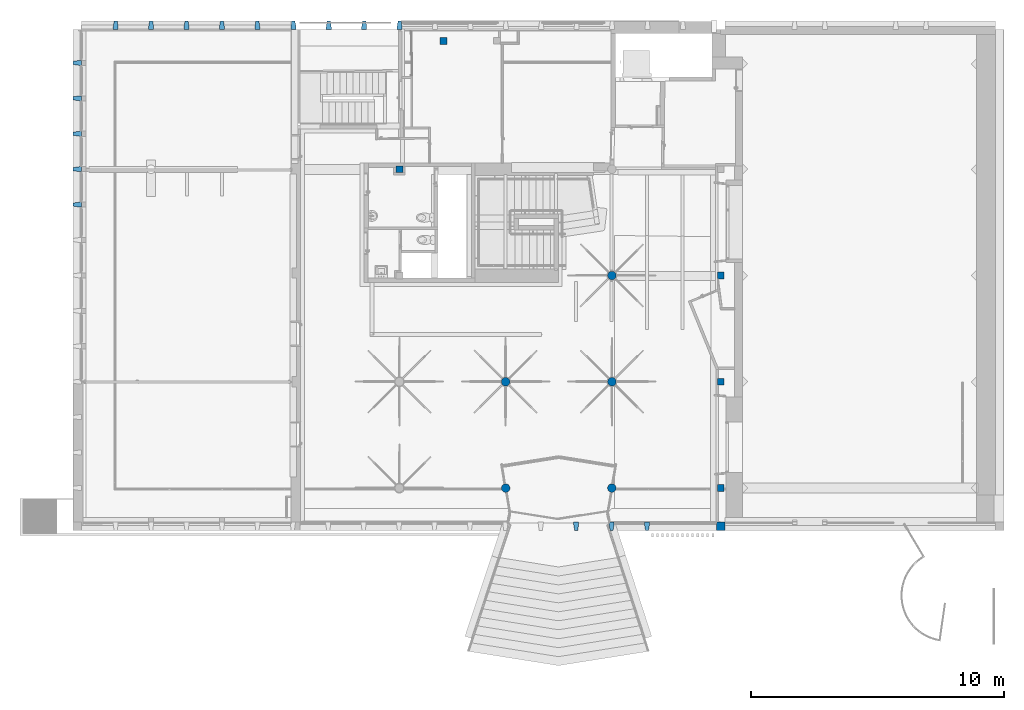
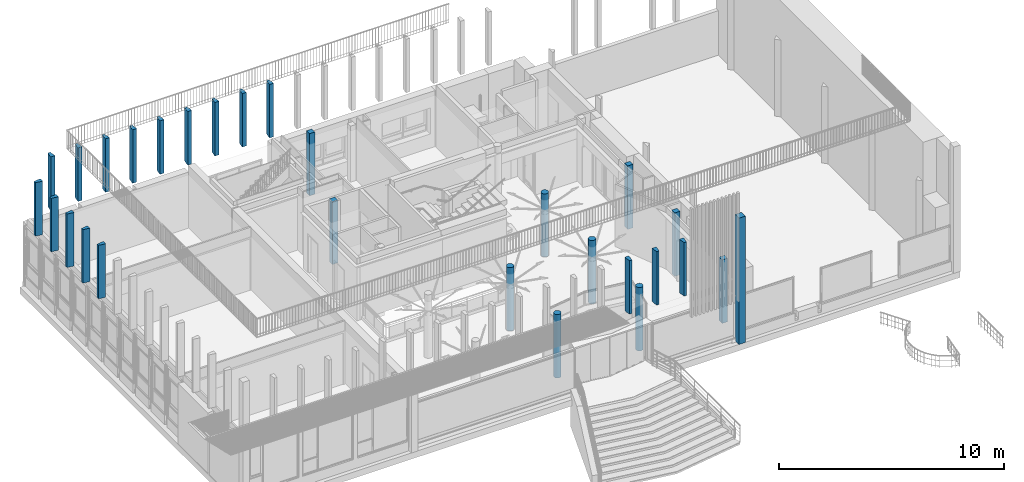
# One storey, part 2 of 65: 28 columns.
"""IFC4 building model written with IfcOpenShell, lengths in metres."""

from ifc_helpers import new_model, entity, si_unit, converted_unit, derived_unit, direction, frame, origin, place, context, subcontext, project, spatial, indexed_curve, outline, extrude, source, transform, mapped, material, material_list, type_object, type_shapes, element, save


model = new_model("IFC4")

# Units and contexts
model_context = context("Model", 3, precision=1e-05, world=origin(), true_north=direction((6.12303176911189e-17, 1.0)))
body_context = subcontext(model_context, "Body", "Model", "MODEL_VIEW")
ifc_project = project(units=[si_unit("LENGTHUNIT", "METRE"), si_unit("AREAUNIT", "SQUARE_METRE"), si_unit("VOLUMEUNIT", "CUBIC_METRE"), converted_unit("PLANEANGLEUNIT", "DEGREE", entity("IfcRatioMeasure", 0.0174532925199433), si_unit("PLANEANGLEUNIT", "RADIAN"), dimensions=[0, 0, 0, 0, 0, 0, 0]), si_unit("MASSUNIT", "GRAM", prefix="KILO"), derived_unit("MASSDENSITYUNIT", [(si_unit("MASSUNIT", "GRAM", prefix="KILO"), 1), (si_unit("LENGTHUNIT", "METRE"), -3)]), derived_unit("MOMENTOFINERTIAUNIT", [(si_unit("LENGTHUNIT", "METRE"), 4)]), si_unit("TIMEUNIT", "SECOND"), si_unit("FREQUENCYUNIT", "HERTZ"), si_unit("THERMODYNAMICTEMPERATUREUNIT", "DEGREE_CELSIUS"), derived_unit("THERMALTRANSMITTANCEUNIT", [(si_unit("MASSUNIT", "GRAM", prefix="KILO"), 1), (si_unit("THERMODYNAMICTEMPERATUREUNIT", "KELVIN"), -1), (si_unit("TIMEUNIT", "SECOND"), -3)]), derived_unit("VOLUMETRICFLOWRATEUNIT", [(si_unit("LENGTHUNIT", "METRE"), 3), (si_unit("TIMEUNIT", "SECOND"), -1)]), si_unit("ELECTRICCURRENTUNIT", "AMPERE"), si_unit("ELECTRICVOLTAGEUNIT", "VOLT"), si_unit("POWERUNIT", "WATT"), si_unit("FORCEUNIT", "NEWTON", prefix="KILO"), si_unit("ILLUMINANCEUNIT", "LUX"), si_unit("LUMINOUSFLUXUNIT", "LUMEN"), si_unit("LUMINOUSINTENSITYUNIT", "CANDELA"), derived_unit("USERDEFINED", [(si_unit("MASSUNIT", "GRAM", prefix="KILO"), -1), (si_unit("LENGTHUNIT", "METRE"), -2), (si_unit("TIMEUNIT", "SECOND"), 3), (si_unit("LUMINOUSFLUXUNIT", "LUMEN"), 1)]), derived_unit("LINEARVELOCITYUNIT", [(si_unit("LENGTHUNIT", "METRE"), 1), (si_unit("TIMEUNIT", "SECOND"), -1)]), si_unit("PRESSUREUNIT", "PASCAL"), derived_unit("USERDEFINED", [(si_unit("LENGTHUNIT", "METRE"), -2), (si_unit("MASSUNIT", "GRAM", prefix="KILO"), 1), (si_unit("TIMEUNIT", "SECOND"), -2)]), derived_unit("LINEARFORCEUNIT", [(si_unit("MASSUNIT", "GRAM", prefix="KILO"), 1), (si_unit("LENGTHUNIT", "METRE"), 1), (si_unit("TIMEUNIT", "SECOND"), -2), (si_unit("LENGTHUNIT", "METRE"), -1)]), derived_unit("PLANARFORCEUNIT", [(si_unit("MASSUNIT", "GRAM", prefix="KILO"), 1), (si_unit("LENGTHUNIT", "METRE"), 1), (si_unit("TIMEUNIT", "SECOND"), -2), (si_unit("LENGTHUNIT", "METRE"), -2)])], contexts=[model_context])

# Site, building, storey
site_placement = place(None, origin())
site = spatial("IfcSite", under=ifc_project, at=site_placement, Name="Default", CompositionType="ELEMENT")
building_placement = place(site_placement, origin())
building = spatial("IfcBuilding", under=site, at=building_placement, Name="HOTEL CONSULAIRE BOULOGNE SUR MER", CompositionType="ELEMENT")
storey_placement = place(building_placement, origin())
storey = spatial("IfcBuildingStorey", under=building, at=storey_placement, Name="Niveau 0", CompositionType="ELEMENT", Elevation=1.31981936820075e-13)

# Columns
ifc_material_1 = material(Name="Maçonnerie - Béton coulé sur place", Category="Béton")
column_type_1 = type_object("IfcColumnType", Name="Poteau béton - Arrondi:340", PredefinedType="COLUMN", material=ifc_material_1)
shared_shape_1 = source(origin(), body_context, "Body", "SweptSolid", [
    extrude(outline(indexed_curve([(0.169999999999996, -2.97350308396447e-16), (0.161679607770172, 0.0525328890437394), (0.137532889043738, 0.0999234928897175), (0.099923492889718, 0.137532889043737), (0.0525328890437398, 0.161679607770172), (1.86135598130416e-16, 0.169999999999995), (-0.0525328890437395, 0.161679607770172), (-0.0999234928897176, 0.137532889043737), (-0.137532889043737, 0.0999234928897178), (-0.161679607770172, 0.0525328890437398), (-0.169999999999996, 1.7643968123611e-16), (-0.161679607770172, -0.0525328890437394), (-0.137532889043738, -0.0999234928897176), (-0.0999234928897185, -0.137532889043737), (-0.0525328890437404, -0.161679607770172), (-8.18583797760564e-16, -0.169999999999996), (0.0525328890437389, -0.161679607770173), (0.0999234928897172, -0.137532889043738), (0.137532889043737, -0.099923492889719), (0.161679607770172, -0.052532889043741), (0.169999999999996, -2.97350308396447e-16)], self_intersect=False)), frame((0.0, 0.0, -0.019999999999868)), (0.0, 0.0, 1.0), 3.4215269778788),
])
type_shapes(column_type_1, [shared_shape_1])
column_1_placement = place(storey_placement, frame((7.17117677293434, -19.815909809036, 0.0)))
element("IfcColumn", 1, at=column_1_placement, inside=storey, type_object=column_type_1, material=ifc_material_1, Name="Poteau béton - Arrondi:340", ObjectType="Poteau béton - Arrondi:340", PredefinedType="COLUMN", context=body_context, shape_type="MappedRepresentation", body=[
    mapped(shared_shape_1, transform((0.0, 0.0, 0.0), scale=1.0)),
])
column_type_2 = type_object("IfcColumnType", Name="Poteau béton - Arrondi:340", PredefinedType="COLUMN", material=ifc_material_1)
shared_shape_2 = source(origin(), body_context, "Body", "SweptSolid", [
    extrude(outline(indexed_curve([(0.169999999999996, -2.97350308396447e-16), (0.161679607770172, 0.0525328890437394), (0.137532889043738, 0.0999234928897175), (0.099923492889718, 0.137532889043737), (0.0525328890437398, 0.161679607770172), (1.86135598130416e-16, 0.169999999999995), (-0.0525328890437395, 0.161679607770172), (-0.0999234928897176, 0.137532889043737), (-0.137532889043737, 0.0999234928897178), (-0.161679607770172, 0.0525328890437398), (-0.169999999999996, 1.7643968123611e-16), (-0.161679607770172, -0.0525328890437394), (-0.137532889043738, -0.0999234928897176), (-0.0999234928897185, -0.137532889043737), (-0.0525328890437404, -0.161679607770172), (-8.18583797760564e-16, -0.169999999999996), (0.0525328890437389, -0.161679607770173), (0.0999234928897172, -0.137532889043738), (0.137532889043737, -0.099923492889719), (0.161679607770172, -0.052532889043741), (0.169999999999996, -2.97350308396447e-16)], self_intersect=False)), frame((0.0, 0.0, -0.0199999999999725)), (0.0, 0.0, 1.0), 3.44152697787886),
])
type_shapes(column_type_2, [shared_shape_2])
for number, where in (
    (2, (7.17117677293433, -24.015909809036, 0.0)),
    (3, (2.97117677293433, -24.015909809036, 0.0)),
    (4, (7.17117677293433, -28.215909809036, 0.0)),
    (5, (2.97117677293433, -28.215909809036, 0.0)),
):
    element("IfcColumn", number, at=place(storey_placement, frame(where)), inside=storey, type_object=column_type_2, material=ifc_material_1, Name="Poteau béton - Arrondi:340", ObjectType="Poteau béton - Arrondi:340", PredefinedType="COLUMN", context=body_context, shape_type="MappedRepresentation", body=[
        mapped(shared_shape_2, transform((0.0, 0.0, 0.0), scale=1.0)),
    ])
column_type_3 = type_object("IfcColumnType", Name="Poteau béton - Rectangulaire:270x270", PredefinedType="COLUMN", material=ifc_material_1)
shared_shape_3 = source(origin(), body_context, "Body", "SweptSolid", [
    extrude(outline(indexed_curve([(-0.135, -0.135), (0.135, -0.135), (0.135, 0.135), (-0.135, 0.135), (-0.135, -0.135)], self_intersect=False)), frame((0.521500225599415, -10.5459347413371, 0.0150000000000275), z_axis=(0.0, 0.0, 1.0), x_axis=(0.0, -1.0, 0.0)), (0.0, 0.0, 1.0), 3.3715269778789),
])
type_shapes(column_type_3, [shared_shape_3])
column_2_placement = place(storey_placement, origin())
element("IfcColumn", 6, at=column_2_placement, inside=storey, type_object=column_type_3, material=ifc_material_1, Name="Poteau béton - Rectangulaire:270x270", ObjectType="Poteau béton - Rectangulaire:270x270", PredefinedType="COLUMN", context=body_context, shape_type="MappedRepresentation", body=[
    mapped(shared_shape_3, transform((0.0, 0.0, 0.0), scale=1.0)),
])
column_type_4 = type_object("IfcColumnType", Name="Poteau béton - Rectangulaire:270x270", PredefinedType="COLUMN", material=ifc_material_1)
shared_shape_4 = source(origin(), body_context, "Body", "SweptSolid", [
    extrude(outline(indexed_curve([(-0.135, -0.135), (0.135, -0.135), (0.135, 0.135), (-0.135, 0.135), (-0.135, -0.135)], self_intersect=False)), frame((-1.22882322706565, -15.615909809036, -0.0199999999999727), z_axis=(0.0, 0.0, 1.0), x_axis=(0.0, -1.0, 0.0)), (0.0, 0.0, 1.0), 3.4065269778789),
])
type_shapes(column_type_4, [shared_shape_4])
column_3_placement = place(storey_placement, origin())
element("IfcColumn", 7, at=column_3_placement, inside=storey, type_object=column_type_4, material=ifc_material_1, Name="Poteau béton - Rectangulaire:270x270", ObjectType="Poteau béton - Rectangulaire:270x270", PredefinedType="COLUMN", context=body_context, shape_type="MappedRepresentation", body=[
    mapped(shared_shape_4, transform((0.0, 0.0, 0.0), scale=1.0)),
])
ifc_material_2 = material(Name="Finition Peinture - Blanc satiné", Category="Peinture")
ifc_material_list_1 = material_list([ifc_material_1, ifc_material_2])
column_type_5 = type_object("IfcColumnType", Name="Poteau béton - Rectangulaire:340x340", PredefinedType="COLUMN", material=ifc_material_list_1)
shared_shape_5 = source(origin(), body_context, "Body", "SweptSolid", [
    extrude(outline(indexed_curve([(-0.17, -0.17), (0.17, -0.17), (0.17, 0.17), (-0.17, 0.17), (-0.17, -0.17)], self_intersect=False)), frame((11.4766382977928, -29.7240671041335, -0.219999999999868), z_axis=(0.0, 0.0, 1.0), x_axis=(0.0, -1.0, 0.0)), (0.0, 0.0, 1.0), 6.85199999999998),
])
type_shapes(column_type_5, [shared_shape_5])
column_4_placement = place(storey_placement, origin())
element("IfcColumn", 8, at=column_4_placement, inside=storey, type_object=column_type_5, material=ifc_material_2, Name="Poteau béton - Rectangulaire:340x340", ObjectType="Poteau béton - Rectangulaire:340x340", PredefinedType="COLUMN", context=body_context, shape_type="MappedRepresentation", body=[
    mapped(shared_shape_5, transform((0.0, 0.0, 0.0), scale=1.0)),
])
ifc_material_3 = material(Name="<Unnamed>")
ifc_material_list_2 = material_list([ifc_material_2, ifc_material_3])
column_type_6 = type_object("IfcColumnType", Name="Poteaux porteurs 29:Poteaux porteurs 1", PredefinedType="COLUMN", material=ifc_material_list_2)
shared_shape_6 = source(origin(), body_context, "Body", "SweptSolid", [
    extrude(outline(indexed_curve([(-0.140333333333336, -0.100000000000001), (-0.0593333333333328, -0.100000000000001), (0.199666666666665, -0.0611499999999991), (0.199666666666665, 0.0611499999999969), (-0.0593333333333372, 0.0999999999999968), (-0.140333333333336, 0.0999999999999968), (-0.140333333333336, -0.100000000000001)], self_intersect=False)), frame((-11.0414199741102, -29.6944004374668, 3.39110477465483), z_axis=(0.0, 0.0, 1.0), x_axis=(0.0, -1.0, 0.0)), (0.0, 0.0, 1.0), 2.90089522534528),
])
type_shapes(column_type_6, [shared_shape_6])
column_5_placement = place(storey_placement, frame((15.7659645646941, -28.0528698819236, 0.0), z_axis=(0.0, 0.0, 1.0), x_axis=(0.0, -1.0, 0.0)))
element("IfcColumn", 9, at=column_5_placement, inside=storey, type_object=column_type_6, material=ifc_material_2, Name="Poteaux porteurs 29:Poteaux porteurs 1", ObjectType="Poteaux porteurs 29:Poteaux porteurs 1", PredefinedType="COLUMN", context=body_context, shape_type="MappedRepresentation", body=[
    mapped(shared_shape_6, transform((0.0, 0.0, 0.0), scale=1.0)),
])
ifc_material_list_3 = material_list([ifc_material_3, ifc_material_2])
column_type_7 = type_object("IfcColumnType", Name="Poteaux porteurs 30:Poteaux porteurs 1", PredefinedType="COLUMN", material=ifc_material_list_3)
shared_shape_7 = source(origin(), body_context, "Body", "SweptSolid", [
    extrude(outline(indexed_curve([(-0.140333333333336, -0.100000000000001), (-0.0593333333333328, -0.100000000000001), (0.199666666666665, -0.0611499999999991), (0.199666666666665, 0.0611499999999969), (-0.0593333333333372, 0.0999999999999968), (-0.140333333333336, 0.0999999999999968), (-0.140333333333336, -0.100000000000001)], self_intersect=False)), frame((-11.0414199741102, -29.6944004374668, 3.39110477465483), z_axis=(0.0, 0.0, 1.0), x_axis=(0.0, -1.0, 0.0)), (0.0, 0.0, 1.0), 2.90089522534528),
])
type_shapes(column_type_7, [shared_shape_7])
column_6_placement = place(storey_placement, frame((15.7659645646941, -26.6528698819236, 0.0), z_axis=(0.0, 0.0, 1.0), x_axis=(0.0, -1.0, 0.0)))
element("IfcColumn", 10, at=column_6_placement, inside=storey, type_object=column_type_7, material=ifc_material_2, Name="Poteaux porteurs 30:Poteaux porteurs 1", ObjectType="Poteaux porteurs 30:Poteaux porteurs 1", PredefinedType="COLUMN", context=body_context, shape_type="MappedRepresentation", body=[
    mapped(shared_shape_7, transform((0.0, 0.0, 0.0), scale=1.0)),
])
ifc_material_list_4 = material_list([ifc_material_3, ifc_material_2])
column_type_8 = type_object("IfcColumnType", Name="Poteaux porteurs 31:Poteaux porteurs 1", PredefinedType="COLUMN", material=ifc_material_list_4)
shared_shape_8 = source(origin(), body_context, "Body", "SweptSolid", [
    extrude(outline(indexed_curve([(-0.140333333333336, -0.100000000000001), (-0.0593333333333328, -0.100000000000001), (0.199666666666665, -0.0611499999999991), (0.199666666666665, 0.0611499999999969), (-0.0593333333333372, 0.0999999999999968), (-0.140333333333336, 0.0999999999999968), (-0.140333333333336, -0.100000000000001)], self_intersect=False)), frame((-11.0414199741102, -29.6944004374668, 3.39110477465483), z_axis=(0.0, 0.0, 1.0), x_axis=(0.0, -1.0, 0.0)), (0.0, 0.0, 1.0), 2.90089522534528),
])
type_shapes(column_type_8, [shared_shape_8])
column_7_placement = place(storey_placement, frame((15.7659645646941, -25.2528698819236, 0.0), z_axis=(0.0, 0.0, 1.0), x_axis=(0.0, -1.0, 0.0)))
element("IfcColumn", 11, at=column_7_placement, inside=storey, type_object=column_type_8, material=ifc_material_2, Name="Poteaux porteurs 31:Poteaux porteurs 1", ObjectType="Poteaux porteurs 31:Poteaux porteurs 1", PredefinedType="COLUMN", context=body_context, shape_type="MappedRepresentation", body=[
    mapped(shared_shape_8, transform((0.0, 0.0, 0.0), scale=1.0)),
])
ifc_material_list_5 = material_list([ifc_material_3, ifc_material_2])
column_type_9 = type_object("IfcColumnType", Name="Poteaux porteurs 32:Poteaux porteurs 1", PredefinedType="COLUMN", material=ifc_material_list_5)
shared_shape_9 = source(origin(), body_context, "Body", "SweptSolid", [
    extrude(outline(indexed_curve([(-0.140333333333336, -0.100000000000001), (-0.0593333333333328, -0.100000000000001), (0.199666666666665, -0.0611499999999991), (0.199666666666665, 0.0611499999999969), (-0.0593333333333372, 0.0999999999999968), (-0.140333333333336, 0.0999999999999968), (-0.140333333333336, -0.100000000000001)], self_intersect=False)), frame((-11.0414199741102, -29.6944004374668, 3.39110477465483), z_axis=(0.0, 0.0, 1.0), x_axis=(0.0, -1.0, 0.0)), (0.0, 0.0, 1.0), 2.90089522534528),
])
type_shapes(column_type_9, [shared_shape_9])
column_8_placement = place(storey_placement, frame((15.7659645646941, -23.8528698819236, 0.0), z_axis=(0.0, 0.0, 1.0), x_axis=(0.0, -1.0, 0.0)))
element("IfcColumn", 12, at=column_8_placement, inside=storey, type_object=column_type_9, material=ifc_material_2, Name="Poteaux porteurs 32:Poteaux porteurs 1", ObjectType="Poteaux porteurs 32:Poteaux porteurs 1", PredefinedType="COLUMN", context=body_context, shape_type="MappedRepresentation", body=[
    mapped(shared_shape_9, transform((0.0, 0.0, 0.0), scale=1.0)),
])
ifc_material_list_6 = material_list([ifc_material_2, ifc_material_3])
column_type_10 = type_object("IfcColumnType", Name="Poteaux porteurs 33:Poteaux porteurs 1", PredefinedType="COLUMN", material=ifc_material_list_6)
shared_shape_10 = source(origin(), body_context, "Body", "SweptSolid", [
    extrude(outline(indexed_curve([(-0.140333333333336, -0.100000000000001), (-0.0593333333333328, -0.100000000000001), (0.199666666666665, -0.0611499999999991), (0.199666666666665, 0.0611499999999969), (-0.0593333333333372, 0.0999999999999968), (-0.140333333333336, 0.0999999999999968), (-0.140333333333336, -0.100000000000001)], self_intersect=False)), frame((-11.0414199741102, -29.6944004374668, 3.39110477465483), z_axis=(0.0, 0.0, 1.0), x_axis=(0.0, -1.0, 0.0)), (0.0, 0.0, 1.0), 2.90089522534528),
])
type_shapes(column_type_10, [shared_shape_10])
column_9_placement = place(storey_placement, frame((15.7659645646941, -22.4528698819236, 0.0), z_axis=(0.0, 0.0, 1.0), x_axis=(0.0, -1.0, 0.0)))
element("IfcColumn", 13, at=column_9_placement, inside=storey, type_object=column_type_10, material=ifc_material_2, Name="Poteaux porteurs 33:Poteaux porteurs 1", ObjectType="Poteaux porteurs 33:Poteaux porteurs 1", PredefinedType="COLUMN", context=body_context, shape_type="MappedRepresentation", body=[
    mapped(shared_shape_10, transform((0.0, 0.0, 0.0), scale=1.0)),
])
ifc_material_list_7 = material_list([ifc_material_3, ifc_material_2])
column_type_11 = type_object("IfcColumnType", Name="Poteaux porteurs 49:Poteaux porteurs 1", PredefinedType="COLUMN", material=ifc_material_list_7)
shared_shape_11 = source(origin(), body_context, "Body", "SweptSolid", [
    extrude(outline(indexed_curve([(-0.140333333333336, -0.100000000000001), (-0.0593333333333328, -0.100000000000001), (0.199666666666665, -0.0611499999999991), (0.199666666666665, 0.0611499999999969), (-0.0593333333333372, 0.0999999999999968), (-0.140333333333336, 0.0999999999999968), (-0.140333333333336, -0.100000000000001)], self_intersect=False)), frame((-11.0414199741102, -29.6944004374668, 3.39112697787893), z_axis=(0.0, 0.0, 1.0), x_axis=(0.0, -1.0, 0.0)), (0.0, 0.0, 1.0), 2.90087302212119),
])
type_shapes(column_type_11, [shared_shape_11])
column_10_placement = place(storey_placement, frame((16.8, 0.0, 0.0)))
element("IfcColumn", 14, at=column_10_placement, inside=storey, type_object=column_type_11, material=ifc_material_2, Name="Poteaux porteurs 49:Poteaux porteurs 1", ObjectType="Poteaux porteurs 49:Poteaux porteurs 1", PredefinedType="COLUMN", context=body_context, shape_type="MappedRepresentation", body=[
    mapped(shared_shape_11, transform((0.0, 0.0, 0.0), scale=1.0)),
])
ifc_material_list_8 = material_list([ifc_material_2, ifc_material_3])
column_type_12 = type_object("IfcColumnType", Name="Poteaux porteurs 50:Poteaux porteurs 1", PredefinedType="COLUMN", material=ifc_material_list_8)
shared_shape_12 = source(origin(), body_context, "Body", "SweptSolid", [
    extrude(outline(indexed_curve([(-0.140333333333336, -0.100000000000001), (-0.0593333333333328, -0.100000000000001), (0.199666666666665, -0.0611499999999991), (0.199666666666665, 0.0611499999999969), (-0.0593333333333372, 0.0999999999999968), (-0.140333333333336, 0.0999999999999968), (-0.140333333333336, -0.100000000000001)], self_intersect=False)), frame((-11.0414199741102, -29.6944004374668, 3.39112697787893), z_axis=(0.0, 0.0, 1.0), x_axis=(0.0, -1.0, 0.0)), (0.0, 0.0, 1.0), 2.90087302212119),
])
type_shapes(column_type_12, [shared_shape_12])
column_11_placement = place(storey_placement, frame((18.2, 0.0, 0.0)))
element("IfcColumn", 15, at=column_11_placement, inside=storey, type_object=column_type_12, material=ifc_material_2, Name="Poteaux porteurs 50:Poteaux porteurs 1", ObjectType="Poteaux porteurs 50:Poteaux porteurs 1", PredefinedType="COLUMN", context=body_context, shape_type="MappedRepresentation", body=[
    mapped(shared_shape_12, transform((0.0, 0.0, 0.0), scale=1.0)),
])
ifc_material_list_9 = material_list([ifc_material_3, ifc_material_2])
column_type_13 = type_object("IfcColumnType", Name="Poteaux porteurs 51:Poteaux porteurs 1", PredefinedType="COLUMN", material=ifc_material_list_9)
shared_shape_13 = source(origin(), body_context, "Body", "SweptSolid", [
    extrude(outline(indexed_curve([(-0.140333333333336, -0.100000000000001), (-0.0593333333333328, -0.100000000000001), (0.199666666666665, -0.0611499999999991), (0.199666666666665, 0.0611499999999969), (-0.0593333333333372, 0.0999999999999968), (-0.140333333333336, 0.0999999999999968), (-0.140333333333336, -0.100000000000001)], self_intersect=False)), frame((-11.0414199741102, -29.6944004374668, 3.39112697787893), z_axis=(0.0, 0.0, 1.0), x_axis=(0.0, -1.0, 0.0)), (0.0, 0.0, 1.0), 2.90087302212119),
])
type_shapes(column_type_13, [shared_shape_13])
column_12_placement = place(storey_placement, frame((19.6, 0.0, 0.0)))
element("IfcColumn", 16, at=column_12_placement, inside=storey, type_object=column_type_13, material=ifc_material_2, Name="Poteaux porteurs 51:Poteaux porteurs 1", ObjectType="Poteaux porteurs 51:Poteaux porteurs 1", PredefinedType="COLUMN", context=body_context, shape_type="MappedRepresentation", body=[
    mapped(shared_shape_13, transform((0.0, 0.0, 0.0), scale=1.0)),
])
ifc_material_list_10 = material_list([ifc_material_2, ifc_material_3])
column_type_14 = type_object("IfcColumnType", Name="Poteaux porteurs 53:Poteaux porteurs 1", PredefinedType="COLUMN", material=ifc_material_list_10)
shared_shape_14 = source(origin(), body_context, "Body", "SweptSolid", [
    extrude(outline(indexed_curve([(-0.140333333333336, -0.100000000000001), (-0.0593333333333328, -0.100000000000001), (0.199666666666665, -0.0611499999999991), (0.199666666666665, 0.0611499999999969), (-0.0593333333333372, 0.0999999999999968), (-0.140333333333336, 0.0999999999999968), (-0.140333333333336, -0.100000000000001)], self_intersect=False)), frame((-11.0414199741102, -29.6944004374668, 3.39112697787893), z_axis=(0.0, 0.0, 1.0), x_axis=(0.0, -1.0, 0.0)), (0.0, 0.0, 1.0), 2.90087302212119),
])
type_shapes(column_type_14, [shared_shape_14])
column_13_placement = place(storey_placement, frame((-22.0828399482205, -39.6397356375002, 0.0), z_axis=(0.0, 0.0, 1.0), x_axis=(-1.0, 0.0, 0.0)))
element("IfcColumn", 17, at=column_13_placement, inside=storey, type_object=column_type_14, material=ifc_material_2, Name="Poteaux porteurs 53:Poteaux porteurs 1", ObjectType="Poteaux porteurs 53:Poteaux porteurs 1", PredefinedType="COLUMN", context=body_context, shape_type="MappedRepresentation", body=[
    mapped(shared_shape_14, transform((0.0, 0.0, 0.0), scale=1.0)),
])
ifc_material_list_11 = material_list([ifc_material_3, ifc_material_2])
column_type_15 = type_object("IfcColumnType", Name="Poteaux porteurs 54:Poteaux porteurs 1", PredefinedType="COLUMN", material=ifc_material_list_11)
shared_shape_15 = source(origin(), body_context, "Body", "SweptSolid", [
    extrude(outline(indexed_curve([(-0.140333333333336, -0.100000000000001), (-0.0593333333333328, -0.100000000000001), (0.199666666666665, -0.0611499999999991), (0.199666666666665, 0.0611499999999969), (-0.0593333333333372, 0.0999999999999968), (-0.140333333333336, 0.0999999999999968), (-0.140333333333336, -0.100000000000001)], self_intersect=False)), frame((-11.0414199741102, -29.6944004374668, 3.39112697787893), z_axis=(0.0, 0.0, 1.0), x_axis=(0.0, -1.0, 0.0)), (0.0, 0.0, 1.0), 2.90087302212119),
])
type_shapes(column_type_15, [shared_shape_15])
column_14_placement = place(storey_placement, frame((-19.2828399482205, -39.6397356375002, 0.0), z_axis=(0.0, 0.0, 1.0), x_axis=(-1.0, 0.0, 0.0)))
element("IfcColumn", 18, at=column_14_placement, inside=storey, type_object=column_type_15, material=ifc_material_2, Name="Poteaux porteurs 54:Poteaux porteurs 1", ObjectType="Poteaux porteurs 54:Poteaux porteurs 1", PredefinedType="COLUMN", context=body_context, shape_type="MappedRepresentation", body=[
    mapped(shared_shape_15, transform((0.0, 0.0, 0.0), scale=1.0)),
])
ifc_material_list_12 = material_list([ifc_material_3, ifc_material_2])
column_type_16 = type_object("IfcColumnType", Name="Poteaux porteurs 58:Poteaux porteurs 1", PredefinedType="COLUMN", material=ifc_material_list_12)
shared_shape_16 = source(origin(), body_context, "Body", "SweptSolid", [
    extrude(outline(indexed_curve([(-0.140333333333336, -0.100000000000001), (-0.0593333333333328, -0.100000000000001), (0.199666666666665, -0.0611499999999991), (0.199666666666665, 0.0611499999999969), (-0.0593333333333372, 0.0999999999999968), (-0.140333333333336, 0.0999999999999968), (-0.140333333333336, -0.100000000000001)], self_intersect=False)), frame((-11.0414199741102, -29.6944004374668, 3.39112697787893), z_axis=(0.0, 0.0, 1.0), x_axis=(0.0, -1.0, 0.0)), (0.0, 0.0, 1.0), 2.90087302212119),
])
type_shapes(column_type_16, [shared_shape_16])
column_15_placement = place(storey_placement, frame((-23.4828399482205, -39.6397356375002, 0.0), z_axis=(0.0, 0.0, 1.0), x_axis=(-1.0, 0.0, 0.0)))
element("IfcColumn", 19, at=column_15_placement, inside=storey, type_object=column_type_16, material=ifc_material_2, Name="Poteaux porteurs 58:Poteaux porteurs 1", ObjectType="Poteaux porteurs 58:Poteaux porteurs 1", PredefinedType="COLUMN", context=body_context, shape_type="MappedRepresentation", body=[
    mapped(shared_shape_16, transform((0.0, 0.0, 0.0), scale=1.0)),
])
ifc_material_list_13 = material_list([ifc_material_2, ifc_material_3])
column_type_17 = type_object("IfcColumnType", Name="Poteaux porteurs 59:Poteaux porteurs 1", PredefinedType="COLUMN", material=ifc_material_list_13)
shared_shape_17 = source(origin(), body_context, "Body", "SweptSolid", [
    extrude(outline(indexed_curve([(-0.140333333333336, -0.100000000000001), (-0.0593333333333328, -0.100000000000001), (0.199666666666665, -0.0611499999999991), (0.199666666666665, 0.0611499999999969), (-0.0593333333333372, 0.0999999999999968), (-0.140333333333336, 0.0999999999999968), (-0.140333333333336, -0.100000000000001)], self_intersect=False)), frame((-11.0414199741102, -29.6944004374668, 3.39112697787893), z_axis=(0.0, 0.0, 1.0), x_axis=(0.0, -1.0, 0.0)), (0.0, 0.0, 1.0), 2.90087302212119),
])
type_shapes(column_type_17, [shared_shape_17])
column_16_placement = place(storey_placement, frame((-20.6828399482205, -39.6397356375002, 0.0), z_axis=(0.0, 0.0, 1.0), x_axis=(-1.0, 0.0, 0.0)))
element("IfcColumn", 20, at=column_16_placement, inside=storey, type_object=column_type_17, material=ifc_material_2, Name="Poteaux porteurs 59:Poteaux porteurs 1", ObjectType="Poteaux porteurs 59:Poteaux porteurs 1", PredefinedType="COLUMN", context=body_context, shape_type="MappedRepresentation", body=[
    mapped(shared_shape_17, transform((0.0, 0.0, 0.0), scale=1.0)),
])
ifc_material_list_14 = material_list([ifc_material_3, ifc_material_2])
column_type_18 = type_object("IfcColumnType", Name="Poteaux porteurs 60:Poteaux porteurs 1", PredefinedType="COLUMN", material=ifc_material_list_14)
shared_shape_18 = source(origin(), body_context, "Body", "SweptSolid", [
    extrude(outline(indexed_curve([(-0.140333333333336, -0.100000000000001), (-0.0593333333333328, -0.100000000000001), (0.199666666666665, -0.0611499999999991), (0.199666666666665, 0.0611499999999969), (-0.0593333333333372, 0.0999999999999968), (-0.140333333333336, 0.0999999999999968), (-0.140333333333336, -0.100000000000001)], self_intersect=False)), frame((-11.0414199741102, -29.6944004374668, 3.39112697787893), z_axis=(0.0, 0.0, 1.0), x_axis=(0.0, -1.0, 0.0)), (0.0, 0.0, 1.0), 2.90087302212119),
])
type_shapes(column_type_18, [shared_shape_18])
column_17_placement = place(storey_placement, frame((-17.8828399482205, -39.6397356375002, 0.0), z_axis=(0.0, 0.0, 1.0), x_axis=(-1.0, 0.0, 0.0)))
element("IfcColumn", 21, at=column_17_placement, inside=storey, type_object=column_type_18, material=ifc_material_2, Name="Poteaux porteurs 60:Poteaux porteurs 1", ObjectType="Poteaux porteurs 60:Poteaux porteurs 1", PredefinedType="COLUMN", context=body_context, shape_type="MappedRepresentation", body=[
    mapped(shared_shape_18, transform((0.0, 0.0, 0.0), scale=1.0)),
])
ifc_material_list_15 = material_list([ifc_material_2, ifc_material_3])
column_type_19 = type_object("IfcColumnType", Name="Poteaux porteurs 61:Poteaux porteurs 1", PredefinedType="COLUMN", material=ifc_material_list_15)
shared_shape_19 = source(origin(), body_context, "Body", "SweptSolid", [
    extrude(outline(indexed_curve([(-0.140333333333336, -0.100000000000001), (-0.0593333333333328, -0.100000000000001), (0.199666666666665, -0.0611499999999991), (0.199666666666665, 0.0611499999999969), (-0.0593333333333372, 0.0999999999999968), (-0.140333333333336, 0.0999999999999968), (-0.140333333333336, -0.100000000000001)], self_intersect=False)), frame((-11.0414199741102, -29.6944004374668, 3.39112697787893), z_axis=(0.0, 0.0, 1.0), x_axis=(0.0, -1.0, 0.0)), (0.0, 0.0, 1.0), 2.90087302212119),
])
type_shapes(column_type_19, [shared_shape_19])
column_18_placement = place(storey_placement, frame((-16.4611931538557, -39.6397356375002, 0.0), z_axis=(0.0, 0.0, 1.0), x_axis=(-1.0, 0.0, 0.0)))
element("IfcColumn", 22, at=column_18_placement, inside=storey, type_object=column_type_19, material=ifc_material_2, Name="Poteaux porteurs 61:Poteaux porteurs 1", ObjectType="Poteaux porteurs 61:Poteaux porteurs 1", PredefinedType="COLUMN", context=body_context, shape_type="MappedRepresentation", body=[
    mapped(shared_shape_19, transform((0.0, 0.0, 0.0), scale=1.0)),
])
ifc_material_list_16 = material_list([ifc_material_2, ifc_material_3])
column_type_20 = type_object("IfcColumnType", Name="Poteaux porteurs 62:Poteaux porteurs 1", PredefinedType="COLUMN", material=ifc_material_list_16)
shared_shape_20 = source(origin(), body_context, "Body", "SweptSolid", [
    extrude(outline(indexed_curve([(-0.140333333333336, -0.100000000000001), (-0.0593333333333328, -0.100000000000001), (0.199666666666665, -0.0611499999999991), (0.199666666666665, 0.0611499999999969), (-0.0593333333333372, 0.0999999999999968), (-0.140333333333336, 0.0999999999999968), (-0.140333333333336, -0.100000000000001)], self_intersect=False)), frame((-11.0414199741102, -29.6944004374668, 3.39112697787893), z_axis=(0.0, 0.0, 1.0), x_axis=(0.0, -1.0, 0.0)), (0.0, 0.0, 1.0), 2.90087302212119),
])
type_shapes(column_type_20, [shared_shape_20])
column_19_placement = place(storey_placement, frame((-15.0611931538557, -39.6397356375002, 0.0), z_axis=(0.0, 0.0, 1.0), x_axis=(-1.0, 0.0, 0.0)))
element("IfcColumn", 23, at=column_19_placement, inside=storey, type_object=column_type_20, material=ifc_material_2, Name="Poteaux porteurs 62:Poteaux porteurs 1", ObjectType="Poteaux porteurs 62:Poteaux porteurs 1", PredefinedType="COLUMN", context=body_context, shape_type="MappedRepresentation", body=[
    mapped(shared_shape_20, transform((0.0, 0.0, 0.0), scale=1.0)),
])
ifc_material_list_17 = material_list([ifc_material_3, ifc_material_2])
column_type_21 = type_object("IfcColumnType", Name="Poteaux porteurs 63:Poteaux porteurs 1", PredefinedType="COLUMN", material=ifc_material_list_17)
shared_shape_21 = source(origin(), body_context, "Body", "SweptSolid", [
    extrude(outline(indexed_curve([(-0.140333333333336, -0.100000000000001), (-0.0593333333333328, -0.100000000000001), (0.199666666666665, -0.0611499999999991), (0.199666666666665, 0.0611499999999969), (-0.0593333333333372, 0.0999999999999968), (-0.140333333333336, 0.0999999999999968), (-0.140333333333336, -0.100000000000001)], self_intersect=False)), frame((-11.0414199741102, -29.6944004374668, 3.39112697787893), z_axis=(0.0, 0.0, 1.0), x_axis=(0.0, -1.0, 0.0)), (0.0, 0.0, 1.0), 2.90087302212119),
])
type_shapes(column_type_21, [shared_shape_21])
column_20_placement = place(storey_placement, frame((-13.6611931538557, -39.6397356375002, 0.0), z_axis=(0.0, 0.0, 1.0), x_axis=(-1.0, 0.0, 0.0)))
element("IfcColumn", 24, at=column_20_placement, inside=storey, type_object=column_type_21, material=ifc_material_2, Name="Poteaux porteurs 63:Poteaux porteurs 1", ObjectType="Poteaux porteurs 63:Poteaux porteurs 1", PredefinedType="COLUMN", context=body_context, shape_type="MappedRepresentation", body=[
    mapped(shared_shape_21, transform((0.0, 0.0, 0.0), scale=1.0)),
])
ifc_material_list_18 = material_list([ifc_material_3, ifc_material_2])
column_type_22 = type_object("IfcColumnType", Name="Poteaux porteurs 64:Poteaux porteurs 1", PredefinedType="COLUMN", material=ifc_material_list_18)
shared_shape_22 = source(origin(), body_context, "Body", "SweptSolid", [
    extrude(outline(indexed_curve([(-0.140333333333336, -0.100000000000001), (-0.0593333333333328, -0.100000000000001), (0.199666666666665, -0.0611499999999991), (0.199666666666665, 0.0611499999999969), (-0.0593333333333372, 0.0999999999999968), (-0.140333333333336, 0.0999999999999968), (-0.140333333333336, -0.100000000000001)], self_intersect=False)), frame((-11.0414199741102, -29.6944004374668, 3.39112697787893), z_axis=(0.0, 0.0, 1.0), x_axis=(0.0, -1.0, 0.0)), (0.0, 0.0, 1.0), 2.90087302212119),
])
type_shapes(column_type_22, [shared_shape_22])
column_21_placement = place(storey_placement, frame((-12.2611931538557, -39.6397356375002, 0.0), z_axis=(0.0, 0.0, 1.0), x_axis=(-1.0, 0.0, 0.0)))
element("IfcColumn", 25, at=column_21_placement, inside=storey, type_object=column_type_22, material=ifc_material_2, Name="Poteaux porteurs 64:Poteaux porteurs 1", ObjectType="Poteaux porteurs 64:Poteaux porteurs 1", PredefinedType="COLUMN", context=body_context, shape_type="MappedRepresentation", body=[
    mapped(shared_shape_22, transform((0.0, 0.0, 0.0), scale=1.0)),
])
column_type_23 = type_object("IfcColumnType", Name="Poteau béton - Rectangulaire:270x270", PredefinedType="COLUMN", material=ifc_material_1)
shared_shape_23 = source(origin(), body_context, "Body", "SweptSolid", [
    extrude(outline(indexed_curve([(-0.135, -0.135), (0.135, -0.135), (0.135, 0.135), (-0.135, 0.135), (-0.135, -0.135)], self_intersect=False)), frame((11.4766382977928, -19.815909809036, -0.0199999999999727), z_axis=(0.0, 0.0, 1.0), x_axis=(0.0, -1.0, 0.0)), (0.0, 0.0, 1.0), 3.44152697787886),
])
type_shapes(column_type_23, [shared_shape_23])
column_22_placement = place(storey_placement, origin())
element("IfcColumn", 26, at=column_22_placement, inside=storey, type_object=column_type_23, material=ifc_material_1, Name="Poteau béton - Rectangulaire:270x270", ObjectType="Poteau béton - Rectangulaire:270x270", PredefinedType="COLUMN", context=body_context, shape_type="MappedRepresentation", body=[
    mapped(shared_shape_23, transform((0.0, 0.0, 0.0), scale=1.0)),
])
column_type_24 = type_object("IfcColumnType", Name="Poteau béton - Rectangulaire:270x270", PredefinedType="COLUMN", material=ifc_material_1)
shared_shape_24 = source(origin(), body_context, "Body", "SweptSolid", [
    extrude(outline(indexed_curve([(-0.135, -0.135), (0.135, -0.135), (0.135, 0.135), (-0.135, 0.135), (-0.135, -0.135)], self_intersect=False)), frame((11.4766382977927, -24.015909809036, -0.0199999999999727), z_axis=(0.0, 0.0, 1.0), x_axis=(0.0, -1.0, 0.0)), (0.0, 0.0, 1.0), 3.44152697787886),
])
type_shapes(column_type_24, [shared_shape_24])
column_23_placement = place(storey_placement, origin())
element("IfcColumn", 27, at=column_23_placement, inside=storey, type_object=column_type_24, material=ifc_material_1, Name="Poteau béton - Rectangulaire:270x270", ObjectType="Poteau béton - Rectangulaire:270x270", PredefinedType="COLUMN", context=body_context, shape_type="MappedRepresentation", body=[
    mapped(shared_shape_24, transform((0.0, 0.0, 0.0), scale=1.0)),
])
column_type_25 = type_object("IfcColumnType", Name="Poteau béton - Rectangulaire:270x270", PredefinedType="COLUMN", material=ifc_material_1)
shared_shape_25 = source(origin(), body_context, "Body", "SweptSolid", [
    extrude(outline(indexed_curve([(-0.135, -0.135), (0.135, -0.135), (0.135, 0.135), (-0.135, 0.135), (-0.135, -0.135)], self_intersect=False)), frame((11.4766382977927, -28.215909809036, -0.0199999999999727), z_axis=(0.0, 0.0, 1.0), x_axis=(0.0, -1.0, 0.0)), (0.0, 0.0, 1.0), 3.44152697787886),
])
type_shapes(column_type_25, [shared_shape_25])
column_24_placement = place(storey_placement, origin())
element("IfcColumn", 28, at=column_24_placement, inside=storey, type_object=column_type_25, material=ifc_material_1, Name="Poteau béton - Rectangulaire:270x270", ObjectType="Poteau béton - Rectangulaire:270x270", PredefinedType="COLUMN", context=body_context, shape_type="MappedRepresentation", body=[
    mapped(shared_shape_25, transform((0.0, 0.0, 0.0), scale=1.0)),
])

save(model, "model.ifc")
